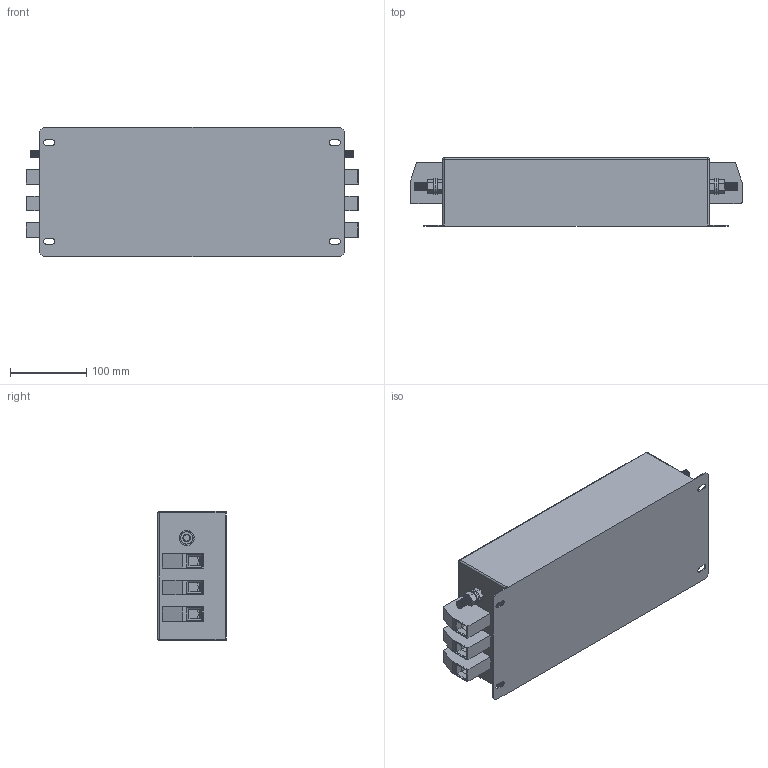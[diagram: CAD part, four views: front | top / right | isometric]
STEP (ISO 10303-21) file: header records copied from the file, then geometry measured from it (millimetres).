
FILE_DESCRIPTION (( 'STEP AP203' ), '1' );
FILE_NAME ('NF-110.STEP', '2021-11-03T17:40:18', ( '' ), ( '' ), 'SwSTEP 2.0', 'SolidWorks 2017', '' );
FILE_SCHEMA (( 'CONFIG_CONTROL_DESIGN' ));
Length unit declared in the file: millimetre
Products named in the file (7): FSH-4c; NF-110; M10x30 Earth post; hex screw_am_B18.6.7M - M10 x 1.5 x 30 Indented HHMS --30S; HDFK-50; flat washer narrow_am_B18.22M - Plain washer, 10 mm, narrow; hex nut style 1_am_B18.2.4.1M - Hex nut, Style 1,  M10 x 1.5, with 16mm WAF --D-N
Assembly tree (13 placements, depth 3):
  NF-110
    FSH-4c
    HDFK-50  x6
    M10x30 Earth post  x2
      flat washer narrow_am_B18.22M - Plain washer, 10 mm, narrow
      hex nut style 1_am_B18.2.4.1M - Hex nut, Style 1,  M10 x 1.5, with 16mm WAF --D-N
      hex screw_am_B18.6.7M - M10 x 1.5 x 30 Indented HHMS --30S
Bounding box: 436.01 x 90 x 170 mm (x, y, z)
Volume: 5326350.4 mm3; surface area: 405581.8 mm2
Topology: 15 solids, 15 shells, 780 faces, 1914 edges, 1212 vertices
Faces by surface type: plane 372, cylinder 204, cone 200, sphere 4
Entity records: 10129 total; most frequent: CARTESIAN_POINT 1745, DIRECTION 1666, ORIENTED_EDGE 1504, EDGE_CURVE 752, AXIS2_PLACEMENT_3D 635, VERTEX_POINT 474, VECTOR 396, LINE 396
